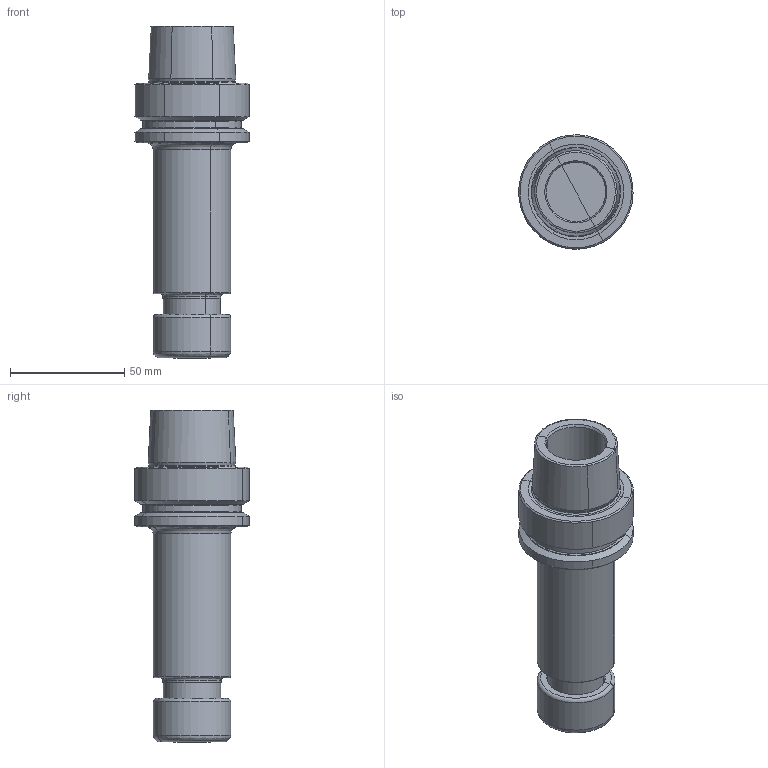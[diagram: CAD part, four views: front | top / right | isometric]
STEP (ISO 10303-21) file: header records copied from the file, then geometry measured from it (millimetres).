
FILE_DESCRIPTION(('CATIA V5 STEP','CAx-IF Rec.Pracs.--- Model Styling and Organization---1.2---2011-12-15'),'2;1');
FILE_NAME('\\nas01\drv1\utils\eitdev\rte\eit\transmagicconvert\db\out\635925983775315300\4561212 L.stp','2016-03-03T08:39:51+00:00',('none'),('none'),'CATIA Version 5 Release 21 SP 5 (IN-10)','CATIA V5 STEP AP214','none');
FILE_SCHEMA(('AUTOMOTIVE_DESIGN { 1 0 10303 214 1 1 1 1 }'));
Length unit declared in the file: millimetre
Products named in the file (1): HSK A 50 ER20X120
Bounding box: 49.91 x 49.99 x 145.05 mm (x, y, z)
Volume: 129557.9 mm3; surface area: 26396.8 mm2
Topology: 1 solids, 1 shells, 103 faces, 206 edges, 105 vertices
Faces by surface type: revolution 81, plane 22
Entity records: 3193 total; most frequent: CARTESIAN_POINT 1297, ORIENTED_EDGE 412, DIRECTION 234, EDGE_CURVE 206, B_SPLINE_CURVE_WITH_KNOTS 162, AXIS2_PLACEMENT_3D 120, CIRCLE 105, VERTEX_POINT 105
